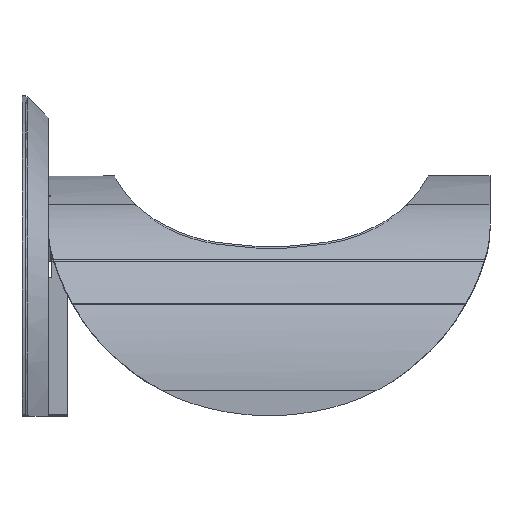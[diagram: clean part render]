
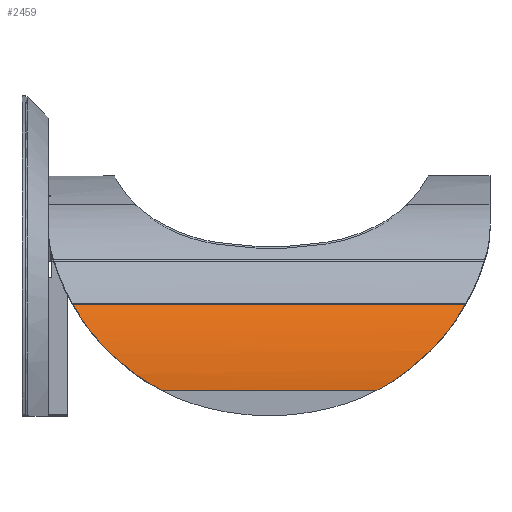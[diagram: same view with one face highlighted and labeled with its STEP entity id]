
A CAD part, left-side view. The second image highlights one B-rep face of the part: STEP entity #2459.
In plain terms, the highlighted cylindrical face has radius 320.879 mm (diameter 641.758 mm), a partial arc.
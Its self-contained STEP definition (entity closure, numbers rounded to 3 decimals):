
#133 = CARTESIAN_POINT ( 'NONE',  ( -468.659, 75.63, 124.691 ) ) ;
#235 = CARTESIAN_POINT ( 'NONE',  ( -456.204, 49.171, 161.489 ) ) ;
#420 = CYLINDRICAL_SURFACE ( 'NONE', #3603, 320.879 ) ;
#703 = CARTESIAN_POINT ( 'NONE',  ( -450., 655.36, 175.472 ) ) ;
#798 = CARTESIAN_POINT ( 'NONE',  ( -479.235, 142.837, 62.405 ) ) ;
#856 = CARTESIAN_POINT ( 'NONE',  ( -473.942, 96.018, 102.095 ) ) ;
#921 = EDGE_LOOP ( 'NONE', ( #7503, #2748, #7186, #6328, #1113, #5607 ) ) ;
#1042 = EDGE_CURVE ( 'NONE', #3576, #2525, #4961, .T. ) ;
#1102 = VECTOR ( 'NONE', #1933, 1000. ) ;
#1113 = ORIENTED_EDGE ( 'NONE', *, *, #4718, .F. ) ;
#1402 = CARTESIAN_POINT ( 'NONE',  ( -479.215, 553.588, 62.498 ) ) ;
#1528 = CARTESIAN_POINT ( 'NONE',  ( -478.269, 568.451, 73.494 ) ) ;
#1570 = VERTEX_POINT ( 'NONE', #2243 ) ;
#1933 = DIRECTION ( 'NONE',  ( 0., -1., 0. ) ) ;
#2133 = CARTESIAN_POINT ( 'NONE',  ( -450., 41.005, 175.472 ) ) ;
#2140 = EDGE_CURVE ( 'NONE', #1570, #8213, #2883, .T. ) ;
#2243 = CARTESIAN_POINT ( 'NONE',  ( -465.869, 628.182, 134.174 ) ) ;
#2253 = B_SPLINE_CURVE_WITH_KNOTS ( 'NONE', 3,
 ( #2133, #6610, #235, #5863, #5920, #10328 ),
 .UNSPECIFIED., .F., .F.,
 ( 4, 2, 4 ),
 ( 0., 0.026, 0.052 ),
 .UNSPECIFIED. ) ;
#2259 = CARTESIAN_POINT ( 'NONE',  ( -480., 179.703, 40. ) ) ;
#2271 = DIRECTION ( 'NONE',  ( 0., -1., 0. ) ) ;
#2336 = CARTESIAN_POINT ( 'NONE',  ( -476.814, 582.622, 85.285 ) ) ;
#2459 = ADVANCED_FACE ( 'NONE', ( #8865 ), #420, .T. ) ;
#2525 = VERTEX_POINT ( 'NONE', #2259 ) ;
#2571 = CARTESIAN_POINT ( 'NONE',  ( -479.334, 551.048, 60.734 ) ) ;
#2742 = CARTESIAN_POINT ( 'NONE',  ( -450., 655.36, 175.472 ) ) ;
#2748 = ORIENTED_EDGE ( 'NONE', *, *, #5949, .F. ) ;
#2823 = CARTESIAN_POINT ( 'NONE',  ( -472.094, 87.566, 110.936 ) ) ;
#2883 = B_SPLINE_CURVE_WITH_KNOTS ( 'NONE', 3,
 ( #4654, #10201, #9351, #4889, #11116, #2742 ),
 .UNSPECIFIED., .F., .F.,
 ( 4, 2, 4 ),
 ( 0., 0.026, 0.052 ),
 .UNSPECIFIED. ) ;
#2893 = CARTESIAN_POINT ( 'NONE',  ( -465.869, 68.182, 134.174 ) ) ;
#2952 = CARTESIAN_POINT ( 'NONE',  ( -480., 168.749, 45.747 ) ) ;
#3435 = CARTESIAN_POINT ( 'NONE',  ( -480., 522.14, 42.874 ) ) ;
#3576 = VERTEX_POINT ( 'NONE', #10612 ) ;
#3603 = AXIS2_PLACEMENT_3D ( 'NONE', #5929, #5999, #11423 ) ;
#4111 = CARTESIAN_POINT ( 'NONE',  ( -480., 724.5, 40. ) ) ;
#4372 = VERTEX_POINT ( 'NONE', #6634 ) ;
#4475 = CARTESIAN_POINT ( 'NONE',  ( -479.961, 527.539, 45.9 ) ) ;
#4606 = CARTESIAN_POINT ( 'NONE',  ( -475.147, 102.548, 95.638 ) ) ;
#4654 = CARTESIAN_POINT ( 'NONE',  ( -465.869, 628.182, 134.174 ) ) ;
#4672 = CARTESIAN_POINT ( 'NONE',  ( -473.502, 93.879, 104.288 ) ) ;
#4718 = EDGE_CURVE ( 'NONE', #4372, #6481, #2253, .T. ) ;
#4889 = CARTESIAN_POINT ( 'NONE',  ( -456.204, 647.193, 161.489 ) ) ;
#4961 = LINE ( 'NONE', #4111, #11510 ) ;
#5136 = EDGE_CURVE ( 'NONE', #8213, #4372, #11396, .T. ) ;
#5140 = CARTESIAN_POINT ( 'NONE',  ( -465.869, 628.182, 134.174 ) ) ;
#5262 = CARTESIAN_POINT ( 'NONE',  ( -476.206, 587.199, 89.382 ) ) ;
#5607 = ORIENTED_EDGE ( 'NONE', *, *, #5136, .F. ) ;
#5774 = EDGE_CURVE ( 'NONE', #6481, #2525, #9685, .T. ) ;
#5863 = CARTESIAN_POINT ( 'NONE',  ( -461.481, 58.238, 147.685 ) ) ;
#5898 = CARTESIAN_POINT ( 'NONE',  ( -465.869, 68.182, 134.174 ) ) ;
#5920 = CARTESIAN_POINT ( 'NONE',  ( -463.815, 63.067, 140.866 ) ) ;
#5929 = CARTESIAN_POINT ( 'NONE',  ( -159.121, 724.5, 40. ) ) ;
#5949 = EDGE_CURVE ( 'NONE', #3576, #1570, #8210, .T. ) ;
#5999 = DIRECTION ( 'NONE',  ( 0., -1., 0. ) ) ;
#6065 = CARTESIAN_POINT ( 'NONE',  ( -479.782, 538.149, 52.237 ) ) ;
#6186 = CARTESIAN_POINT ( 'NONE',  ( -477.845, 573.248, 77.341 ) ) ;
#6304 = CARTESIAN_POINT ( 'NONE',  ( -471.145, 613.037, 115.405 ) ) ;
#6328 = ORIENTED_EDGE ( 'NONE', *, *, #5774, .F. ) ;
#6442 = CARTESIAN_POINT ( 'NONE',  ( -474.764, 100.351, 97.771 ) ) ;
#6481 = VERTEX_POINT ( 'NONE', #5898 ) ;
#6610 = CARTESIAN_POINT ( 'NONE',  ( -453.262, 44.937, 168.468 ) ) ;
#6634 = CARTESIAN_POINT ( 'NONE',  ( -450., 41.005, 175.472 ) ) ;
#6683 = CARTESIAN_POINT ( 'NONE',  ( -478.967, 137.818, 65.993 ) ) ;
#7186 = ORIENTED_EDGE ( 'NONE', *, *, #1042, .T. ) ;
#7219 = CARTESIAN_POINT ( 'NONE',  ( -480., 516.662, 40. ) ) ;
#7503 = ORIENTED_EDGE ( 'NONE', *, *, #2140, .F. ) ;
#7603 = CARTESIAN_POINT ( 'NONE',  ( -477.85, 123.167, 77.299 ) ) ;
#8027 = CARTESIAN_POINT ( 'NONE',  ( -474.775, 596.129, 97.827 ) ) ;
#8210 = B_SPLINE_CURVE_WITH_KNOTS ( 'NONE', 3,
 ( #7219, #3435, #4475, #6065, #10935, #2571, #1402, #9850, #9972, #1528, #6186, #2336, #5262, #8027, #11727, #6304, #10812, #5140 ),
 .UNSPECIFIED., .F., .F.,
 ( 4, 2, 2, 2, 2, 2, 2, 2, 4 ),
 ( 0., 0.019, 0.037, 0.046, 0.056, 0.074, 0.093, 0.111, 0.148 ),
 .UNSPECIFIED. ) ;
#8213 = VERTEX_POINT ( 'NONE', #703 ) ;
#8460 = CARTESIAN_POINT ( 'NONE',  ( -476.214, 109.225, 89.328 ) ) ;
#8865 = FACE_OUTER_BOUND ( 'NONE', #921, .T. ) ;
#9236 = CARTESIAN_POINT ( 'NONE',  ( -471.037, 83.496, 115.462 ) ) ;
#9351 = CARTESIAN_POINT ( 'NONE',  ( -461.481, 638.127, 147.686 ) ) ;
#9685 = B_SPLINE_CURVE_WITH_KNOTS ( 'NONE', 3,
 ( #2893, #11188, #133, #9236, #2823, #4672, #856, #6442, #4606, #8460, #10218, #7603, #11976, #6683, #798, #11312, #2952, #10396 ),
 .UNSPECIFIED., .F., .F.,
 ( 4, 2, 2, 2, 2, 2, 2, 2, 4 ),
 ( 0., 0.019, 0.037, 0.046, 0.056, 0.074, 0.093, 0.111, 0.148 ),
 .UNSPECIFIED. ) ;
#9850 = CARTESIAN_POINT ( 'NONE',  ( -478.943, 558.607, 66.089 ) ) ;
#9972 = CARTESIAN_POINT ( 'NONE',  ( -478.789, 561.088, 67.916 ) ) ;
#10201 = CARTESIAN_POINT ( 'NONE',  ( -463.815, 633.297, 140.866 ) ) ;
#10218 = CARTESIAN_POINT ( 'NONE',  ( -476.82, 113.794, 85.239 ) ) ;
#10316 = CARTESIAN_POINT ( 'NONE',  ( -450., 724.5, 175.472 ) ) ;
#10328 = CARTESIAN_POINT ( 'NONE',  ( -465.869, 68.182, 134.174 ) ) ;
#10396 = CARTESIAN_POINT ( 'NONE',  ( -480., 179.703, 40. ) ) ;
#10612 = CARTESIAN_POINT ( 'NONE',  ( -480., 516.662, 40. ) ) ;
#10812 = CARTESIAN_POINT ( 'NONE',  ( -468.803, 620.879, 124.618 ) ) ;
#10935 = CARTESIAN_POINT ( 'NONE',  ( -479.642, 543.363, 55.549 ) ) ;
#11116 = CARTESIAN_POINT ( 'NONE',  ( -453.262, 651.427, 168.468 ) ) ;
#11188 = CARTESIAN_POINT ( 'NONE',  ( -467.336, 71.833, 129.398 ) ) ;
#11312 = CARTESIAN_POINT ( 'NONE',  ( -479.847, 158.164, 52.07 ) ) ;
#11396 = LINE ( 'NONE', #10316, #1102 ) ;
#11423 = DIRECTION ( 'NONE',  ( 0., 0., -1. ) ) ;
#11510 = VECTOR ( 'NONE', #2271, 1000. ) ;
#11727 = CARTESIAN_POINT ( 'NONE',  ( -473.956, 600.46, 102.152 ) ) ;
#11976 = CARTESIAN_POINT ( 'NONE',  ( -478.274, 127.972, 73.449 ) ) ;
